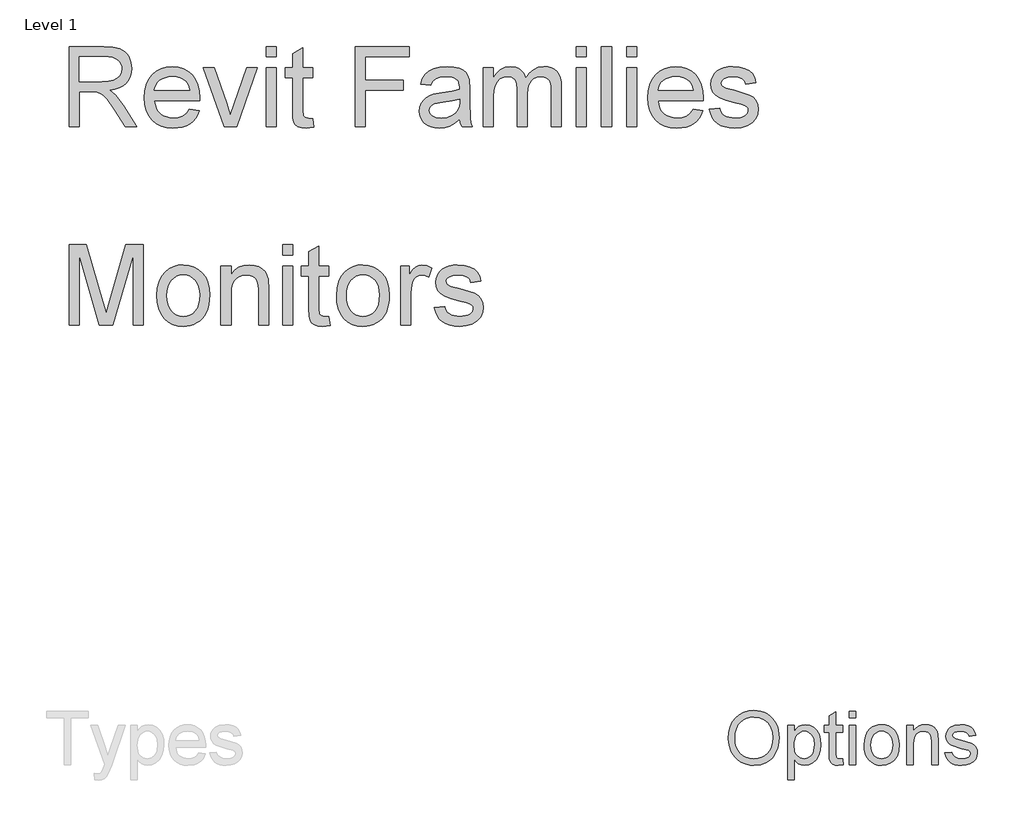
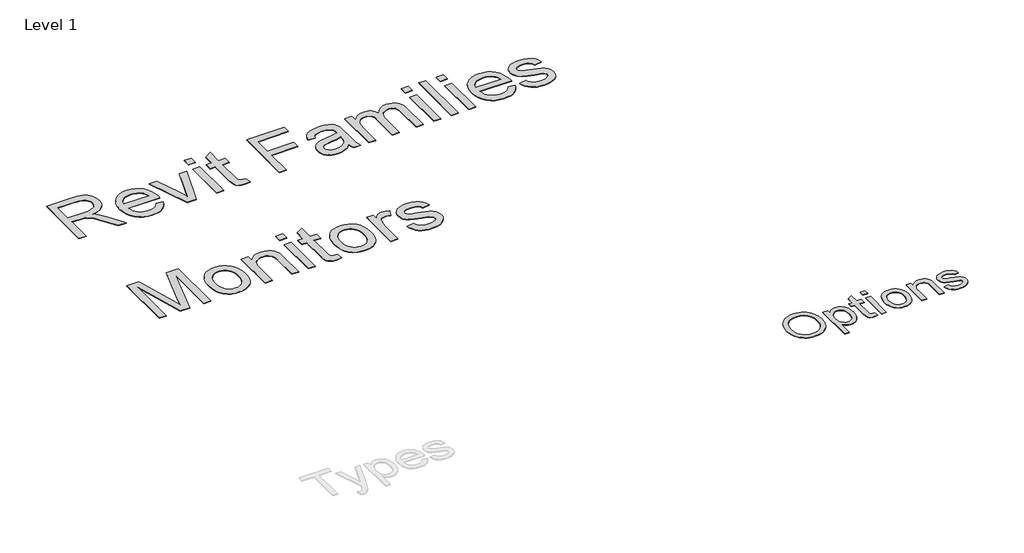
# One storey, part 7 of 7: 2 proxies.
"""IFC4 building model written with IfcOpenShell, lengths in millimetres."""

from ifc_helpers import new_model, si_unit, origin, origin_with_axes, place, context, project, spatial, polyline, outline, extrude, element, save

model = new_model("IFC4")

# Units and contexts
model_context = context("Model", 3, world=origin())
ifc_project = project(units=[si_unit("LENGTHUNIT", "METRE", prefix="MILLI")], contexts=[model_context])

# Site, building, storey
site = spatial("IfcSite", under=ifc_project)
building = spatial("IfcBuilding", under=site)
storey = spatial("IfcBuildingStorey", under=building, Name="Level 1", Elevation=0.0)

# Proxies
placement = place(None, origin())
element("IfcBuildingElementProxy", 1, Name="400mm Arial", ObjectType="400mm Arial", at=placement, inside=storey, context=model_context, shape_type="SweptSolid", body=[
    extrude(outline(polyline([(-6462.261333, 17542.0194987), (-6458.9974836, 17587.9704339), (-6449.2059353, 17628.6489968), (-6432.8866881, 17664.0551876), (-6410.0397421, 17694.1890063), (-6382.0340011, 17718.2494348), (-6350.238369, 17735.4354552), (-6314.6528458, 17745.7470674), (-6275.2774315, 17749.1842715), (-6248.9215484, 17747.57028), (-6223.892725, 17742.7283055), (-6200.1909613, 17734.6583482), (-6177.8162572, 17723.3604078), (-6157.3962762, 17709.1752161), (-6139.5586815, 17692.4435044), (-6124.3034732, 17673.1652729), (-6111.6306512, 17651.3405215), (-6101.671726, 17627.4654031), (-6094.558208, 17602.0360707), (-6088.8673936, 17546.5147639), (-6094.8570953, 17490.2522165), (-6102.3442224, 17464.4701971), (-6112.8262004, 17440.2543472), (-6126.0549528, 17418.2442857), (-6141.7824031, 17399.0796313), (-6160.0085513, 17382.7603841), (-6180.7333974, 17369.2865442), (-6226.4153339, 17351.2098396), (-6275.5643633, 17345.1842715), (-6302.3805328, 17346.8490738), (-6327.7381322, 17351.8434807), (-6351.6371616, 17360.1674923), (-6374.0776209, 17371.8211086), (-6394.473691, 17386.3530096), (-6412.2395527, 17403.3118756), (-6427.3752061, 17422.6977066), (-6439.8806512, 17444.5105025), (-6456.6661625, 17491.91403), (-6462.261333, 17542.0194987)]), holes=[polyline([(-6413.291636, 17541.541279), (-6410.843749, 17509.0761393), (-6403.5000877, 17480.2574249), (-6391.2606524, 17455.0851356), (-6374.1254429, 17433.5592715), (-6353.2959862, 17416.3194514), (-6329.9738093, 17404.0052942), (-6304.1589123, 17396.6167999), (-6275.8512951, 17394.1539684), (-6247.0594805, 17396.6407108), (-6220.9397184, 17404.1009381), (-6197.4920089, 17416.5346502), (-6176.7163519, 17433.9418472), (-6159.7066751, 17455.92202), (-6147.5569059, 17482.0746597), (-6140.2670444, 17512.3997662), (-6137.8370906, 17546.8973396), (-6141.9976019, 17590.2479552), (-6154.479136, 17627.7164684), (-6174.9588946, 17658.3583955), (-6203.1140792, 17681.2292525), (-6237.0796332, 17695.468244), (-6274.9904997, 17700.2145745), (-6302.3147776, 17697.9280866), (-6327.6663993, 17691.0686228), (-6351.0453647, 17679.6361831), (-6372.4516739, 17663.6307677), (-6390.3191573, 17642.2812471), (-6403.0816455, 17614.8164921), (-6410.7391384, 17581.2365027), (-6413.291636, 17541.541279)])]), origin_with_axes(), (0.0, 0.0, 1.0), 5.0),
    extrude(outline(polyline([(-6027.6552724, 17241.1236654), (-6027.6552724, 17639.0024533), (-5978.6855754, 17639.0024533), (-5978.6855754, 17590.9891957), (-5962.7130375, 17614.6730262), (-5944.8276209, 17631.590048), (-5923.9772421, 17641.740261), (-5899.1098179, 17645.1236654), (-5865.9931038, 17640.3892904), (-5837.0369012, 17626.1861654), (-5813.4606701, 17603.3750858), (-5796.4838709, 17572.8168472), (-5786.2260584, 17536.7351711), (-5782.8067875, 17497.353779), (-5786.6684116, 17455.4736891), (-5798.2532838, 17418.0171313), (-5817.1907838, 17386.885029), (-5843.1102913, 17363.9783055), (-5873.2979097, 17349.88278), (-5905.0397421, 17345.1842715), (-5927.5519343, 17348.328566), (-5947.6491171, 17357.7614495), (-5964.8530707, 17372.000441), (-5978.6855754, 17389.5630593), (-5978.6855754, 17241.1236654), (-6027.6552724, 17241.1236654)]), holes=[polyline([(-5978.6855754, 17492.8585139), (-5973.3892923, 17448.9579457), (-5966.7689384, 17431.9572355), (-5957.5004429, 17418.2562411), (-5934.0557222, 17400.1795366), (-5920.6386708, 17395.6603605), (-5906.0918254, 17394.1539684), (-5891.3357589, 17395.7141602), (-5877.6736199, 17400.3947355), (-5853.6311247, 17419.1170366), (-5844.0697196, 17433.3141839), (-5837.2401446, 17450.9425574), (-5831.7764845, 17496.4929836), (-5837.1086341, 17540.1544419), (-5843.7738212, 17557.2866625), (-5853.105083, 17571.2865442), (-5876.5139372, 17589.9371124), (-5889.778556, 17594.5997544), (-5904.0833027, 17596.1539684), (-5918.3432163, 17594.5011216), (-5931.7602677, 17589.5425811), (-5956.0657838, 17569.7084192), (-5965.9619426, 17554.9882191), (-5973.0306275, 17537.2731682), (-5977.2718384, 17516.5632665), (-5978.6855754, 17492.8585139)])]), origin_with_axes(), (0.0, 0.0, 1.0), 5.0),
    extrude(outline(polyline([(-5623.6552724, 17392.1454457), (-5617.5340603, 17349.8708245), (-5654.1656891, 17345.1842715), (-5677.6701872, 17347.2167052), (-5695.1969391, 17353.3140063), (-5707.5828292, 17362.7110233), (-5715.6647421, 17374.6426048), (-5720.1121853, 17395.1343188), (-5721.5946663, 17430.2117336), (-5721.5946663, 17590.0327563), (-5758.3219391, 17590.0327563), (-5758.3219391, 17639.0024533), (-5721.5946663, 17639.0024533), (-5721.5946663, 17708.918173), (-5672.6249694, 17737.7069987), (-5672.6249694, 17639.0024533), (-5623.6552724, 17639.0024533), (-5623.6552724, 17590.0327563), (-5672.6249694, 17590.0327563), (-5672.6249694, 17431.6463927), (-5670.042583, 17406.3963927), (-5661.6737383, 17397.4536843), (-5644.9838709, 17394.1539684), (-5623.6552724, 17392.1454457)])), origin_with_axes(), (0.0, 0.0, 1.0), 5.0),
    extrude(outline(polyline([(-5574.6855754, 17351.3054836), (-5574.6855754, 17639.0024533), (-5525.7158785, 17639.0024533), (-5525.7158785, 17351.3054836), (-5574.6855754, 17351.3054836)])), origin_with_axes(), (0.0, 0.0, 1.0), 5.0),
    extrude(outline(polyline([(-5574.6855754, 17694.0933624), (-5574.6855754, 17743.0630593), (-5525.7158785, 17743.0630593), (-5525.7158785, 17694.0933624), (-5574.6855754, 17694.0933624)])), origin_with_axes(), (0.0, 0.0, 1.0), 5.0),
    extrude(outline(polyline([(-5464.5037572, 17495.1539684), (-5461.8556157, 17532.4132606), (-5453.911191, 17564.5197355), (-5440.6704831, 17591.4733931), (-5422.1334921, 17613.2742336), (-5403.4709684, 17627.20836), (-5382.871655, 17637.1613074), (-5360.3355518, 17643.1330759), (-5335.8626588, 17645.1236654), (-5308.8462348, 17642.6996893), (-5284.4181749, 17635.427761), (-5262.5784791, 17623.3078806), (-5243.3271474, 17606.340048), (-5227.6146415, 17585.0981268), (-5216.391423, 17560.1559807), (-5209.6574919, 17531.5136098), (-5207.4128482, 17499.1710139), (-5211.3820716, 17449.6991862), (-5223.2897421, 17412.0393851), (-5242.7891502, 17383.8363785), (-5269.5335868, 17362.7349343), (-5301.2993302, 17349.5719372), (-5335.8626588, 17345.1842715), (-5363.273614, 17347.5992809), (-5387.9288283, 17354.8443093), (-5409.8283015, 17366.9193567), (-5428.9720338, 17383.824423), (-5444.5171628, 17405.2725764), (-5455.6208264, 17430.9768851), (-5462.2830245, 17460.9373491), (-5464.5037572, 17495.1539684)]), holes=[polyline([(-5415.5340603, 17495.2496124), (-5414.1173344, 17471.4970378), (-5409.8671569, 17450.9306019), (-5402.7835276, 17433.5503048), (-5392.8664466, 17419.3561465), (-5380.8033548, 17408.3301936), (-5367.2816929, 17400.4545129), (-5352.3014608, 17395.7291045), (-5335.8626588, 17394.1539684), (-5319.5075451, 17395.7380712), (-5304.5870906, 17400.4903794), (-5291.1012951, 17408.4108931), (-5279.0501588, 17419.4996124), (-5269.1330778, 17433.8342478), (-5262.0494485, 17451.4925101), (-5257.799271, 17472.4743993), (-5256.3825451, 17496.7799154), (-5257.8082376, 17519.7792939), (-5262.085315, 17539.8077326), (-5269.2137774, 17556.8652314), (-5279.1936247, 17570.9517904), (-5291.2895941, 17581.9777433), (-5304.766423, 17589.8534239), (-5319.6241112, 17594.5788323), (-5335.8626588, 17596.1539684), (-5352.3014608, 17594.58481), (-5367.2816929, 17589.8773349), (-5380.8033548, 17582.031543), (-5392.8664466, 17571.0474343), (-5402.7835276, 17556.8951202), (-5409.8671569, 17539.5447118), (-5414.1173344, 17518.9962092), (-5415.5340603, 17495.2496124)])]), origin_with_axes(), (0.0, 0.0, 1.0), 5.0),
    extrude(outline(polyline([(-5152.3219391, 17351.3054836), (-5152.3219391, 17639.0024533), (-5103.3522421, 17639.0024533), (-5103.3522421, 17598.8319987), (-5086.3395764, 17619.0846029), (-5065.9076398, 17633.5507487), (-5042.0564324, 17642.2304362), (-5014.7859542, 17645.1236654), (-4990.647815, 17642.7923444), (-4968.5421095, 17635.7983813), (-4950.1067402, 17625.0145271), (-4936.9796095, 17611.3135328), (-4928.0727677, 17594.7312648), (-4922.2982648, 17575.3035896), (-4919.7158785, 17527.9598396), (-4919.7158785, 17351.3054836), (-4968.6855754, 17351.3054836), (-4968.6855754, 17521.3604078), (-4970.0963235, 17546.6821408), (-4974.3285679, 17564.6871124), (-4982.1355044, 17577.5870887), (-4994.2703292, 17587.5938358), (-5009.8244249, 17594.0139353), (-5027.8891739, 17596.1539684), (-5056.5704002, 17591.3478605), (-5081.0193822, 17576.9295366), (-5090.7900084, 17565.1593543), (-5097.7690271, 17549.0732393), (-5101.9564384, 17528.6711914), (-5103.3522421, 17503.9532108), (-5103.3522421, 17351.3054836), (-5152.3219391, 17351.3054836)])), origin_with_axes(), (0.0, 0.0, 1.0), 5.0),
    extrude(outline(polyline([(-4870.7461815, 17437.0024533), (-4821.7764845, 17443.1236654), (-4814.0532364, 17422.1776427), (-4799.1088709, 17406.7789684), (-4776.847744, 17397.3102184), (-4747.1742118, 17394.1539684), (-4717.8593444, 17397.0471976), (-4697.2480754, 17405.7268851), (-4685.0534732, 17418.3040631), (-4680.9886057, 17432.8897639), (-4685.0773841, 17445.371298), (-4697.3437194, 17454.8878699), (-4747.7480754, 17468.8518851), (-4821.4895527, 17492.8106919), (-4840.1520764, 17504.8498728), (-4853.6737383, 17520.7865442), (-4861.8871616, 17539.6044893), (-4864.6249694, 17560.2874911), (-4862.4251588, 17579.2608576), (-4855.8257269, 17596.775654), (-4845.4244485, 17612.1384618), (-4831.8190982, 17624.6558624), (-4800.6869959, 17639.1459192), (-4758.5558406, 17645.1236654), (-4726.6824978, 17642.7206114), (-4698.9696663, 17635.5114495), (-4676.6846285, 17624.2015536), (-4661.0946663, 17609.496298), (-4650.7651209, 17590.3077326), (-4644.261333, 17565.5479078), (-4693.23103, 17559.4266957), (-4699.4120196, 17574.8373254), (-4711.6424883, 17586.4461086), (-4730.0419911, 17593.7270035), (-4754.730083, 17596.1539684), (-4782.8494012, 17593.8346029), (-4801.5956133, 17586.8765063), (-4812.1403576, 17576.8338927), (-4815.6552724, 17565.260976), (-4809.8209921, 17551.010029), (-4791.5529997, 17540.2022639), (-4749.3740224, 17529.7770745), (-4677.4976019, 17506.7268851), (-4658.51228, 17495.7039211), (-4644.1178671, 17480.6160896), (-4635.0436483, 17461.4155688), (-4632.0189088, 17438.0545366), (-4635.56969, 17413.9044419), (-4646.2220338, 17391.1890063), (-4663.5694533, 17371.6895982), (-4687.2054618, 17357.1875858), (-4715.7551777, 17348.1851), (-4747.8437194, 17345.1842715), (-4774.1996024, 17346.630886), (-4797.2199031, 17350.9707298), (-4816.9046214, 17358.2038027), (-4833.2537572, 17368.3301048), (-4846.6080423, 17381.3018141), (-4857.308208, 17397.0711086), (-4865.3542544, 17415.6379883), (-4870.7461815, 17437.0024533)])), origin_with_axes(), (0.0, 0.0, 1.0), 5.0),
])
element("IfcBuildingElementProxy", 2, Name="600mm Arial", ObjectType="600mm Arial", at=placement, inside=storey, context=model_context, shape_type="SweptSolid", body=[
    extrude(outline(polyline([(-11309.2935955, 22041.6162982), (-11309.2935955, 22632.385529), (-11054.7262878, 22632.385529), (-10986.3068167, 22628.401154), (-10936.5291724, 22616.448029), (-10917.3194369, 22606.9468271), (-10900.1469609, 22594.3807213), (-10885.0117446, 22578.7497117), (-10871.9137878, 22560.0537982), (-10861.3443768, 22539.2980891), (-10853.7947974, 22517.4876924), (-10847.755134, 22470.7028367), (-10850.2566364, 22440.3602886), (-10857.7611436, 22412.5057213), (-10870.2686556, 22387.1391347), (-10887.7791724, 22364.260529), (-10910.5180547, 22344.6000722), (-10938.7106628, 22328.8879328), (-10972.356997, 22317.1241107), (-11011.4570571, 22309.3086059), (-10987.1181148, 22293.4071636), (-10969.4859032, 22277.7220674), (-10909.630134, 22201.7124521), (-10811.1205186, 22041.6162982), (-10896.9378263, 22041.6162982), (-10973.8128263, 22164.0682213), (-11029.3416724, 22245.1259136), (-11049.9847013, 22268.7617309), (-11068.3560955, 22283.4191828), (-11103.4762878, 22297.4816828), (-11146.3128263, 22300.0778367), (-11235.4474417, 22300.0778367), (-11235.4474417, 22041.6162982), (-11309.2935955, 22041.6162982)]), holes=[polyline([(-11235.4474417, 22373.9239905), (-11070.1589801, 22373.9239905), (-11022.6890282, 22376.5381732), (-10985.8560955, 22384.3807213), (-10958.1277301, 22397.9744713), (-10937.9714801, 22417.8422597), (-10925.6938359, 22441.8747117), (-10921.6012878, 22467.9624521), (-10923.5529104, 22486.8476684), (-10929.4077782, 22503.9840867), (-10939.1658912, 22519.3717069), (-10952.8272494, 22533.010529), (-10970.7073575, 22544.1793992), (-10993.1217205, 22552.1571636), (-11020.0703383, 22556.9438222), (-11051.5532109, 22558.5393751), (-11235.4474417, 22558.5393751), (-11235.4474417, 22373.9239905)])]), origin_with_axes(), (0.0, 0.0, 1.0), 5.0),
    extrude(outline(polyline([(-10424.005134, 22170.8470674), (-10351.6012878, 22161.6162982), (-10362.7025498, 22132.6168992), (-10377.6890282, 22107.0610097), (-10396.5607229, 22084.9486299), (-10419.317634, 22066.2797597), (-10445.7253864, 22051.4510338), (-10475.5496051, 22040.8590867), (-10508.7902902, 22034.5039184), (-10545.4474417, 22032.385529), (-10591.2677542, 22036.0408775), (-10632.0940763, 22047.0069232), (-10667.926408, 22065.283666), (-10698.7647494, 22090.8711059), (-10723.5634273, 22123.0571035), (-10741.2767686, 22161.1295194), (-10751.9047734, 22205.0883535), (-10755.4474417, 22254.9336059), (-10751.8687157, 22306.4690626), (-10741.1325378, 22351.8927405), (-10723.238908, 22391.2046396), (-10698.1878263, 22424.4047597), (-10667.4306148, 22450.7809617), (-10632.4185955, 22469.6211059), (-10593.1517686, 22480.9251924), (-10549.630134, 22484.6932213), (-10507.5102422, 22480.9342069), (-10469.4197974, 22469.6571636), (-10435.3587998, 22450.8620915), (-10405.3272494, 22424.5489905), (-10380.8125258, 22391.4209857), (-10363.302009, 22352.1812021), (-10352.7956989, 22306.8296396), (-10349.2935955, 22255.3662982), (-10349.7262878, 22235.4624521), (-10681.6012878, 22235.4624521), (-10677.3239441, 22205.994303), (-10668.8188359, 22180.1860097), (-10656.0859633, 22158.0375722), (-10639.1253263, 22139.5489905), (-10618.8744248, 22124.9726684), (-10596.270759, 22114.5610097), (-10571.3143287, 22108.3140146), (-10544.005134, 22106.2316828), (-10504.7022494, 22110.0898559), (-10471.6012878, 22121.6643751), (-10444.7022494, 22141.6763944), (-10424.005134, 22170.8470674)]), holes=[polyline([(-10681.6012878, 22309.3086059), (-10423.1397494, 22309.3086059), (-10433.1277301, 22348.323029), (-10441.7184753, 22363.6655771), (-10452.7070571, 22376.2316828), (-10472.8452782, 22391.3759136), (-10495.7599417, 22402.1932213), (-10521.4510474, 22408.6836059), (-10549.9185955, 22410.8470674), (-10575.8846412, 22409.1208054), (-10599.6962398, 22403.9420194), (-10621.3533912, 22395.3107093), (-10640.8560955, 22383.2268751), (-10657.2217806, 22368.2494112), (-10669.4678744, 22350.9372117), (-10677.5943768, 22331.2902766), (-10681.6012878, 22309.3086059)])]), origin_with_axes(), (0.0, 0.0, 1.0), 5.0),
    extrude(outline(polyline([(-10169.005134, 22041.6162982), (-10321.6012878, 22475.4624521), (-10243.4282109, 22475.4624521), (-10150.9762878, 22215.5586059), (-10123.1397494, 22128.1547597), (-10095.880134, 22210.6547597), (-10002.8512878, 22475.4624521), (-9924.6782109, 22475.4624521), (-10075.3993648, 22041.6162982), (-10169.005134, 22041.6162982)])), origin_with_axes(), (0.0, 0.0, 1.0), 5.0),
    extrude(outline(polyline([(-9860.0628263, 22041.6162982), (-9860.0628263, 22475.4624521), (-9786.2166724, 22475.4624521), (-9786.2166724, 22041.6162982), (-9860.0628263, 22041.6162982)])), origin_with_axes(), (0.0, 0.0, 1.0), 5.0),
    extrude(outline(polyline([(-9860.0628263, 22558.5393751), (-9860.0628263, 22632.385529), (-9786.2166724, 22632.385529), (-9786.2166724, 22558.5393751), (-9860.0628263, 22558.5393751)])), origin_with_axes(), (0.0, 0.0, 1.0), 5.0),
    extrude(outline(polyline([(-9518.5243648, 22103.2028367), (-9509.2935955, 22039.4528367), (-9564.5339801, 22032.385529), (-9599.9786917, 22035.4504328), (-9626.4089801, 22044.6451444), (-9645.0868648, 22058.8158174), (-9657.2743648, 22076.8086059), (-9663.9810955, 22107.7100482), (-9666.2166724, 22160.6066828), (-9666.2166724, 22401.6162982), (-9721.6012878, 22401.6162982), (-9721.6012878, 22475.4624521), (-9666.2166724, 22475.4624521), (-9666.2166724, 22580.8951444), (-9592.3705186, 22624.3086059), (-9592.3705186, 22475.4624521), (-9518.5243648, 22475.4624521), (-9518.5243648, 22401.6162982), (-9592.3705186, 22401.6162982), (-9592.3705186, 22162.7701444), (-9588.4762878, 22124.6932213), (-9575.8560955, 22111.2076444), (-9565.2010474, 22107.4756732), (-9550.6878263, 22106.2316828), (-9518.5243648, 22103.2028367)])), origin_with_axes(), (0.0, 0.0, 1.0), 5.0),
    extrude(outline(polyline([(-9204.6782109, 22041.6162982), (-9204.6782109, 22632.385529), (-8807.755134, 22632.385529), (-8807.755134, 22558.5393751), (-9130.8320571, 22558.5393751), (-9130.8320571, 22383.1547597), (-8853.9089801, 22383.1547597), (-8853.9089801, 22309.3086059), (-9130.8320571, 22309.3086059), (-9130.8320571, 22041.6162982), (-9204.6782109, 22041.6162982)])), origin_with_axes(), (0.0, 0.0, 1.0), 5.0),
    extrude(outline(polyline([(-8438.5243648, 22097.0009136), (-8473.8068167, 22066.7485097), (-8510.1349417, 22046.9528367), (-8548.3380667, 22036.0273559), (-8589.2455186, 22032.385529), (-8622.1256268, 22034.5760338), (-8650.958259, 22041.1475482), (-8675.7434152, 22052.1000722), (-8696.4810955, 22067.4336059), (-8712.855795, 22086.1745915), (-8724.552009, 22107.3494713), (-8731.5697373, 22130.9582453), (-8733.9089801, 22157.0009136), (-8730.3753263, 22187.6138944), (-8719.7743648, 22215.4143751), (-8703.4222013, 22239.2124521), (-8682.6349417, 22257.8182213), (-8658.2058551, 22271.8807213), (-8630.9282109, 22282.0489905), (-8567.0339801, 22293.1547597), (-8491.5291724, 22304.8374521), (-8438.9570571, 22318.5393751), (-8438.5243648, 22334.9816828), (-8443.6084994, 22367.9384136), (-8449.9636676, 22380.1439424), (-8458.8609032, 22389.5009136), (-8474.239509, 22398.8398559), (-8492.9714801, 22405.510529), (-8540.4955186, 22410.8470674), (-8584.4859032, 22407.2953847), (-8615.2070571, 22396.6403367), (-8636.1565763, 22376.9348078), (-8650.8320571, 22346.2316828), (-8724.6782109, 22355.4624521), (-8711.8597013, 22395.8470674), (-8692.7310955, 22427.5778367), (-8665.5075378, 22451.8446636), (-8628.4041724, 22469.8374521), (-8583.0255667, 22480.979279), (-8530.9762878, 22484.6932213), (-8481.0544128, 22481.4119713), (-8441.4810955, 22471.5682213), (-8411.6433551, 22456.7665386), (-8390.9282109, 22438.6114905), (-8377.1902301, 22416.1655771), (-8368.2839801, 22388.4912982), (-8364.6782109, 22323.8759136), (-8364.6782109, 22232.0009136), (-8360.9282109, 22103.7076444), (-8355.3753263, 22071.994904), (-8346.2166724, 22041.6162982), (-8420.0628263, 22041.6162982), (-8431.8897494, 22067.2893751), (-8438.5243648, 22097.0009136)]), holes=[polyline([(-8438.5243648, 22244.6932213), (-8488.1397494, 22232.3975482), (-8557.6589801, 22222.0489905), (-8621.192634, 22210.0778367), (-8637.7250859, 22201.8927405), (-8649.9666724, 22190.6066828), (-8657.5387878, 22177.0850482), (-8660.0628263, 22162.1932213), (-8654.5640282, 22140.2340867), (-8638.067634, 22122.2412982), (-8610.9342205, 22110.2340867), (-8573.5243648, 22106.2316828), (-8533.8609032, 22110.6487501), (-8498.8128263, 22123.8999521), (-8470.3993648, 22143.4251924), (-8450.6397494, 22166.6643751), (-8441.8777301, 22190.6066828), (-8438.9570571, 22223.7797597), (-8438.5243648, 22244.6932213)])]), origin_with_axes(), (0.0, 0.0, 1.0), 5.0),
    extrude(outline(polyline([(-8263.1397494, 22041.6162982), (-8263.1397494, 22475.4624521), (-8189.2935955, 22475.4624521), (-8189.2935955, 22404.0682213), (-8167.0820571, 22436.8626924), (-8138.5243648, 22462.5537982), (-8104.5940763, 22479.1583655), (-8066.2647494, 22484.6932213), (-8025.1950378, 22479.0501924), (-8007.7160715, 22471.9964064), (-7992.2743648, 22462.1211059), (-7967.6830186, 22435.0237501), (-7951.6012878, 22398.8759136), (-7924.6842205, 22436.4209857), (-7893.9810955, 22463.2388944), (-7859.4919128, 22479.3296396), (-7821.2166724, 22484.6932213), (-7791.653872, 22482.4621516), (-7765.7058551, 22475.7689424), (-7743.372622, 22464.6135939), (-7724.6541724, 22448.9961059), (-7709.856997, 22428.73619), (-7699.2875859, 22403.6535578), (-7692.9459393, 22373.7482093), (-7690.8320571, 22339.0201444), (-7690.8320571, 22041.6162982), (-7764.6782109, 22041.6162982), (-7764.6782109, 22307.2893751), (-7766.3909513, 22344.1223078), (-7771.5291724, 22368.948029), (-7781.1565763, 22385.9492309), (-7796.3368648, 22399.3086059), (-7815.8621051, 22407.9624521), (-7838.5243648, 22410.8470674), (-7859.4513479, 22408.9991107), (-7878.5303744, 22403.4552405), (-7895.7614441, 22394.2154569), (-7911.1445571, 22381.2797597), (-7923.7962998, 22364.2695434), (-7932.833259, 22342.8062021), (-7938.2554345, 22316.8897357), (-7940.0628263, 22286.5201444), (-7940.0628263, 22041.6162982), (-8013.9089801, 22041.6162982), (-8013.9089801, 22315.510529), (-8018.1818167, 22357.2653367), (-8031.0003263, 22387.0489905), (-8040.9116845, 22397.4606492), (-8053.5544128, 22404.8975482), (-8068.9285114, 22409.3596876), (-8087.0339801, 22410.8470674), (-8115.4834994, 22406.8807213), (-8141.6974417, 22394.9816828), (-8163.3320571, 22375.4384136), (-8178.0435955, 22348.5393751), (-8186.4810955, 22311.2196636), (-8189.2935955, 22260.4143751), (-8189.2935955, 22041.6162982), (-8263.1397494, 22041.6162982)])), origin_with_axes(), (0.0, 0.0, 1.0), 5.0),
    extrude(outline(polyline([(-7580.0628263, 22041.6162982), (-7580.0628263, 22475.4624521), (-7506.2166724, 22475.4624521), (-7506.2166724, 22041.6162982), (-7580.0628263, 22041.6162982)])), origin_with_axes(), (0.0, 0.0, 1.0), 5.0),
    extrude(outline(polyline([(-7580.0628263, 22558.5393751), (-7580.0628263, 22632.385529), (-7506.2166724, 22632.385529), (-7506.2166724, 22558.5393751), (-7580.0628263, 22558.5393751)])), origin_with_axes(), (0.0, 0.0, 1.0), 5.0),
    extrude(outline(polyline([(-7395.4474417, 22041.6162982), (-7395.4474417, 22632.385529), (-7321.6012878, 22632.385529), (-7321.6012878, 22041.6162982), (-7395.4474417, 22041.6162982)])), origin_with_axes(), (0.0, 0.0, 1.0), 5.0),
    extrude(outline(polyline([(-7210.8320571, 22041.6162982), (-7210.8320571, 22475.4624521), (-7136.9859032, 22475.4624521), (-7136.9859032, 22041.6162982), (-7210.8320571, 22041.6162982)])), origin_with_axes(), (0.0, 0.0, 1.0), 5.0),
    extrude(outline(polyline([(-7210.8320571, 22558.5393751), (-7210.8320571, 22632.385529), (-7136.9859032, 22632.385529), (-7136.9859032, 22558.5393751), (-7210.8320571, 22558.5393751)])), origin_with_axes(), (0.0, 0.0, 1.0), 5.0),
    extrude(outline(polyline([(-6722.4666724, 22170.8470674), (-6650.0628263, 22161.6162982), (-6661.1640883, 22132.6168992), (-6676.1505667, 22107.0610097), (-6695.0222614, 22084.9486299), (-6717.7791724, 22066.2797597), (-6744.1869248, 22051.4510338), (-6774.0111436, 22040.8590867), (-6807.2518287, 22034.5039184), (-6843.9089801, 22032.385529), (-6889.7292926, 22036.0408775), (-6930.5556148, 22047.0069232), (-6966.3879465, 22065.283666), (-6997.2262878, 22090.8711059), (-7022.0249657, 22123.0571035), (-7039.7383071, 22161.1295194), (-7050.3663119, 22205.0883535), (-7053.9089801, 22254.9336059), (-7050.3302542, 22306.4690626), (-7039.5940763, 22351.8927405), (-7021.7004465, 22391.2046396), (-6996.6493648, 22424.4047597), (-6965.8921532, 22450.7809617), (-6930.880134, 22469.6211059), (-6891.6133071, 22480.9251924), (-6848.0916724, 22484.6932213), (-6805.9717806, 22480.9342069), (-6767.8813359, 22469.6571636), (-6733.8203383, 22450.8620915), (-6703.7887878, 22424.5489905), (-6679.2740643, 22391.4209857), (-6661.7635474, 22352.1812021), (-6651.2572373, 22306.8296396), (-6647.755134, 22255.3662982), (-6648.1878263, 22235.4624521), (-6980.0628263, 22235.4624521), (-6975.7854825, 22205.994303), (-6967.2803744, 22180.1860097), (-6954.5475018, 22158.0375722), (-6937.5868648, 22139.5489905), (-6917.3359633, 22124.9726684), (-6894.7322974, 22114.5610097), (-6869.7758672, 22108.3140146), (-6842.4666724, 22106.2316828), (-6803.1637878, 22110.0898559), (-6770.0628263, 22121.6643751), (-6743.1637878, 22141.6763944), (-6722.4666724, 22170.8470674)]), holes=[polyline([(-6980.0628263, 22309.3086059), (-6721.6012878, 22309.3086059), (-6731.5892686, 22348.323029), (-6740.1800138, 22363.6655771), (-6751.1685955, 22376.2316828), (-6771.3068167, 22391.3759136), (-6794.2214801, 22402.1932213), (-6819.9125859, 22408.6836059), (-6848.380134, 22410.8470674), (-6874.3461797, 22409.1208054), (-6898.1577782, 22403.9420194), (-6919.8149297, 22395.3107093), (-6939.317634, 22383.2268751), (-6955.6833191, 22368.2494112), (-6967.9294128, 22350.9372117), (-6976.0559152, 22331.2902766), (-6980.0628263, 22309.3086059)])]), origin_with_axes(), (0.0, 0.0, 1.0), 5.0),
    extrude(outline(polyline([(-6601.6012878, 22170.8470674), (-6527.755134, 22180.0778367), (-6523.2929946, 22163.2388944), (-6516.1084994, 22148.4912982), (-6506.2016484, 22135.8350482), (-6493.5724417, 22125.2701444), (-6478.1848215, 22116.9408174), (-6460.0027301, 22110.9912982), (-6415.255134, 22106.2316828), (-6371.0484032, 22110.5946636), (-6353.8669128, 22116.0483896), (-6339.9666724, 22123.6836059), (-6321.5772494, 22142.6499521), (-6315.4474417, 22164.6451444), (-6316.988908, 22174.6150963), (-6321.6133071, 22183.4672597), (-6340.1109032, 22197.8182213), (-6367.7671532, 22207.1932213), (-6416.1205186, 22218.8759136), (-6483.5123455, 22238.3650963), (-6527.3224417, 22255.0057213), (-6555.4654705, 22273.1607694), (-6575.8560955, 22297.1932213), (-6588.2419128, 22325.5706251), (-6592.3705186, 22356.760529), (-6589.0532109, 22385.3723078), (-6579.1012878, 22411.7845674), (-6563.4161917, 22434.9516347), (-6542.8993648, 22453.8278367), (-6522.5087398, 22465.7088463), (-6495.9522494, 22475.6787982), (-6465.2491244, 22482.4396155), (-6432.4185955, 22484.6932213), (-6384.3536917, 22481.0694232), (-6342.5628263, 22470.198029), (-6308.9570571, 22453.1427405), (-6285.4474417, 22430.9672597), (-6269.8705186, 22402.0309617), (-6260.0628263, 22364.6932213), (-6333.9089801, 22355.4624521), (-6343.2298936, 22378.7016347), (-6361.6734032, 22396.2076444), (-6389.4197974, 22407.1872117), (-6426.6493648, 22410.8470674), (-6469.0532109, 22407.3494713), (-6497.3224417, 22396.8566828), (-6513.223884, 22381.7124521), (-6518.5243648, 22364.260529), (-6516.3248455, 22352.9023559), (-6509.7262878, 22342.7701444), (-6498.4402301, 22333.7196636), (-6482.1782109, 22326.4720674), (-6418.5724417, 22310.7509136), (-6310.1830186, 22275.9912982), (-6281.5532109, 22259.3687021), (-6259.8464801, 22236.6162982), (-6246.1625859, 22207.6619713), (-6241.6012878, 22172.4336059), (-6246.9558551, 22136.0153367), (-6263.0195571, 22101.760529), (-6289.1794128, 22072.3554809), (-6324.8224417, 22050.4864905), (-6367.8753263, 22036.9107694), (-6416.2647494, 22032.385529), (-6456.0093407, 22034.5670194), (-6490.723884, 22041.1114905), (-6520.4083792, 22052.0189424), (-6545.0628263, 22067.2893751), (-6565.2010474, 22086.8506732), (-6581.3368648, 22110.6307213), (-6593.4702782, 22138.6295194), (-6601.6012878, 22170.8470674)])), origin_with_axes(), (0.0, 0.0, 1.0), 5.0),
    extrude(outline(polyline([(-11309.2935955, 20583.1547597), (-11309.2935955, 21173.9239905), (-11182.2262878, 21173.9239905), (-11061.3609032, 20757.5297597), (-11036.9859032, 20670.5586059), (-11010.5916724, 20764.7412982), (-10891.7455186, 21173.9239905), (-10764.6782109, 21173.9239905), (-10764.6782109, 20583.1547597), (-10838.5243648, 20583.1547597), (-10838.5243648, 21100.0778367), (-10986.9378263, 20583.1547597), (-11087.0339801, 20583.1547597), (-11235.4474417, 21100.0778367), (-11235.4474417, 20583.1547597), (-11309.2935955, 20583.1547597)])), origin_with_axes(), (0.0, 0.0, 1.0), 5.0),
    extrude(outline(polyline([(-10663.1397494, 20800.0778367), (-10659.1463599, 20856.2647357), (-10647.1661917, 20904.6812021), (-10627.1992446, 20945.3272357), (-10599.2455186, 20978.2028367), (-10571.1024898, 20999.2154569), (-10540.0387878, 21014.2244713), (-10506.0544128, 21023.2298799), (-10469.1493648, 21026.2316828), (-10428.4086797, 21022.5763343), (-10391.5712398, 21011.6102886), (-10358.637045, 20993.3335458), (-10329.6060955, 20967.7461059), (-10305.9116845, 20935.7133535), (-10288.9871051, 20898.1006732), (-10278.8323575, 20854.908065), (-10275.4474417, 20806.135529), (-10276.9438359, 20766.6072838), (-10281.4330186, 20731.5321636), (-10288.9149898, 20700.9101684), (-10299.3897494, 20674.7412982), (-10312.7265883, 20652.1376323), (-10328.7947974, 20632.2112501), (-10347.5943768, 20614.9621516), (-10369.1253263, 20600.3903367), (-10392.5493047, 20588.8113102), (-10417.0279705, 20580.5405771), (-10442.5613239, 20575.5781372), (-10469.1493648, 20573.9239905), (-10510.4850018, 20577.5658174), (-10547.6649898, 20588.4912982), (-10580.6893287, 20606.7004328), (-10609.5580186, 20632.1932213), (-10633.0000258, 20664.5369713), (-10649.7443167, 20703.2989905), (-10659.7908912, 20748.479279), (-10663.1397494, 20800.0778367)]), holes=[polyline([(-10589.2935955, 20800.2220674), (-10587.1571773, 20764.4032573), (-10580.7479224, 20733.3891347), (-10570.0658311, 20707.1796997), (-10555.1109032, 20685.7749521), (-10536.9197974, 20669.1478487), (-10516.5291724, 20657.2713463), (-10493.9390282, 20650.1454448), (-10469.1493648, 20647.7701444), (-10444.4859032, 20650.1589665), (-10421.9859032, 20657.3254328), (-10401.6493648, 20669.2695434), (-10383.4762878, 20685.9912982), (-10368.5213599, 20707.6078847), (-10357.8392686, 20734.2364905), (-10351.4300138, 20765.8771155), (-10349.2935955, 20802.5297597), (-10351.4435354, 20837.2127525), (-10357.8933551, 20867.4155771), (-10368.6430547, 20893.1382333), (-10383.692634, 20914.3807213), (-10401.9333191, 20931.0078247), (-10422.2563359, 20942.8843271), (-10444.6616845, 20950.0102285), (-10469.1493648, 20952.385529), (-10493.9390282, 20950.0192429), (-10516.5291724, 20942.9203847), (-10536.9197974, 20931.0889545), (-10555.1109032, 20914.5249521), (-10570.0658311, 20893.1833054), (-10580.7479224, 20867.0189424), (-10587.1571773, 20836.0318631), (-10589.2935955, 20800.2220674)])]), origin_with_axes(), (0.0, 0.0, 1.0), 5.0),
    extrude(outline(polyline([(-10192.3705186, 20583.1547597), (-10192.3705186, 21017.0009136), (-10118.5243648, 21017.0009136), (-10118.5243648, 20956.4239905), (-10092.8693167, 20986.9648559), (-10062.0580186, 21008.7797597), (-10026.0904705, 21021.8687021), (-9984.9666724, 21026.2316828), (-9948.5664321, 21022.7160578), (-9915.2310955, 21012.1691828), (-9887.4306148, 20995.9071636), (-9867.6349417, 20975.2461059), (-9854.2034513, 20950.2400963), (-9845.4955186, 20920.9432213), (-9841.6012878, 20849.5489905), (-9841.6012878, 20583.1547597), (-9915.4474417, 20583.1547597), (-9915.4474417, 20839.5970674), (-9917.5748455, 20877.7821636), (-9923.9570571, 20904.9336059), (-9935.7298936, 20924.3867309), (-9954.0291724, 20939.4768751), (-9977.4847013, 20949.1583655), (-10004.7262878, 20952.385529), (-10027.1496652, 20950.5736299), (-10047.9774898, 20945.1379328), (-10067.2097614, 20936.0784376), (-10084.8464801, 20923.3951444), (-10099.5805547, 20905.6457453), (-10110.1048936, 20881.3879328), (-10116.419497, 20850.6217069), (-10118.5243648, 20813.3470674), (-10118.5243648, 20583.1547597), (-10192.3705186, 20583.1547597)])), origin_with_axes(), (0.0, 0.0, 1.0), 5.0),
    extrude(outline(polyline([(-9740.0628263, 21100.0778367), (-9740.0628263, 21173.9239905), (-9666.2166724, 21173.9239905), (-9666.2166724, 21100.0778367), (-9740.0628263, 21100.0778367)])), origin_with_axes(), (0.0, 0.0, 1.0), 5.0),
    extrude(outline(polyline([(-9740.0628263, 20583.1547597), (-9740.0628263, 21017.0009136), (-9666.2166724, 21017.0009136), (-9666.2166724, 20583.1547597), (-9740.0628263, 20583.1547597)])), origin_with_axes(), (0.0, 0.0, 1.0), 5.0),
    extrude(outline(polyline([(-9398.5243648, 20644.7412982), (-9389.2935955, 20580.9912982), (-9444.5339801, 20573.9239905), (-9479.9786917, 20576.9888944), (-9506.4089801, 20586.1836059), (-9525.0868648, 20600.354279), (-9537.2743648, 20618.3470674), (-9543.9810955, 20649.2485097), (-9546.2166724, 20702.1451444), (-9546.2166724, 20943.1547597), (-9601.6012878, 20943.1547597), (-9601.6012878, 21017.0009136), (-9546.2166724, 21017.0009136), (-9546.2166724, 21122.4336059), (-9472.3705186, 21165.8470674), (-9472.3705186, 21017.0009136), (-9398.5243648, 21017.0009136), (-9398.5243648, 20943.1547597), (-9472.3705186, 20943.1547597), (-9472.3705186, 20704.3086059), (-9468.4762878, 20666.2316828), (-9455.8560955, 20652.7461059), (-9445.2010474, 20649.0141347), (-9430.6878263, 20647.7701444), (-9398.5243648, 20644.7412982)])), origin_with_axes(), (0.0, 0.0, 1.0), 5.0),
    extrude(outline(polyline([(-9343.1397494, 20800.0778367), (-9339.1463599, 20856.2647357), (-9327.1661917, 20904.6812021), (-9307.1992446, 20945.3272357), (-9279.2455186, 20978.2028367), (-9251.1024898, 20999.2154569), (-9220.0387878, 21014.2244713), (-9186.0544128, 21023.2298799), (-9149.1493648, 21026.2316828), (-9108.4086797, 21022.5763343), (-9071.5712398, 21011.6102886), (-9038.637045, 20993.3335458), (-9009.6060955, 20967.7461059), (-8985.9116845, 20935.7133535), (-8968.9871051, 20898.1006732), (-8958.8323575, 20854.908065), (-8955.4474417, 20806.135529), (-8956.9438359, 20766.6072838), (-8961.4330186, 20731.5321636), (-8968.9149898, 20700.9101684), (-8979.3897494, 20674.7412982), (-8992.7265883, 20652.1376323), (-9008.7947974, 20632.2112501), (-9027.5943768, 20614.9621516), (-9049.1253263, 20600.3903367), (-9072.5493047, 20588.8113102), (-9097.0279705, 20580.5405771), (-9122.5613239, 20575.5781372), (-9149.1493648, 20573.9239905), (-9190.4850018, 20577.5658174), (-9227.6649898, 20588.4912982), (-9260.6893287, 20606.7004328), (-9289.5580186, 20632.1932213), (-9313.0000258, 20664.5369713), (-9329.7443167, 20703.2989905), (-9339.7908912, 20748.479279), (-9343.1397494, 20800.0778367)]), holes=[polyline([(-9269.2935955, 20800.2220674), (-9267.1571773, 20764.4032573), (-9260.7479224, 20733.3891347), (-9250.0658311, 20707.1796997), (-9235.1109032, 20685.7749521), (-9216.9197974, 20669.1478487), (-9196.5291724, 20657.2713463), (-9173.9390282, 20650.1454448), (-9149.1493648, 20647.7701444), (-9124.4859032, 20650.1589665), (-9101.9859032, 20657.3254328), (-9081.6493648, 20669.2695434), (-9063.4762878, 20685.9912982), (-9048.5213599, 20707.6078847), (-9037.8392686, 20734.2364905), (-9031.4300138, 20765.8771155), (-9029.2935955, 20802.5297597), (-9031.4435354, 20837.2127525), (-9037.8933551, 20867.4155771), (-9048.6430547, 20893.1382333), (-9063.692634, 20914.3807213), (-9081.9333191, 20931.0078247), (-9102.2563359, 20942.8843271), (-9124.6616845, 20950.0102285), (-9149.1493648, 20952.385529), (-9173.9390282, 20950.0192429), (-9196.5291724, 20942.9203847), (-9216.9197974, 20931.0889545), (-9235.1109032, 20914.5249521), (-9250.0658311, 20893.1833054), (-9260.7479224, 20867.0189424), (-9267.1571773, 20836.0318631), (-9269.2935955, 20800.2220674)])]), origin_with_axes(), (0.0, 0.0, 1.0), 5.0),
    extrude(outline(polyline([(-8872.3705186, 20583.1547597), (-8872.3705186, 21017.0009136), (-8807.755134, 21017.0009136), (-8807.755134, 20952.8182213), (-8783.8849417, 20990.0297597), (-8761.8897494, 21011.9528367), (-8739.8224417, 21022.6619713), (-8715.7359032, 21026.2316828), (-8678.9570571, 21020.5345674), (-8641.6012878, 21003.4432213), (-8666.2647494, 20937.2412982), (-8692.2262878, 20948.5994713), (-8718.1878263, 20952.385529), (-8740.2371051, 20948.7437021), (-8759.942634, 20937.8182213), (-8775.8621051, 20920.4384136), (-8786.5532109, 20897.4336059), (-8795.5315763, 20856.1836059), (-8798.5243648, 20811.1836059), (-8798.5243648, 20583.1547597), (-8872.3705186, 20583.1547597)])), origin_with_axes(), (0.0, 0.0, 1.0), 5.0),
    extrude(outline(polyline([(-8623.1397494, 20712.385529), (-8549.2935955, 20721.6162982), (-8544.8314561, 20704.7773559), (-8537.6469609, 20690.0297597), (-8527.7401099, 20677.3735097), (-8515.1109032, 20666.8086059), (-8499.723283, 20658.479279), (-8481.5411917, 20652.5297597), (-8436.7935955, 20647.7701444), (-8392.5868648, 20652.1331251), (-8375.4053744, 20657.5868511), (-8361.505134, 20665.2220674), (-8343.1157109, 20684.1884136), (-8336.9859032, 20706.1836059), (-8338.5273696, 20716.1535578), (-8343.1517686, 20725.0057213), (-8361.6493648, 20739.3566828), (-8389.3056148, 20748.7316828), (-8437.6589801, 20760.4143751), (-8505.0508071, 20779.9035578), (-8548.8609032, 20796.5441828), (-8577.0039321, 20814.6992309), (-8597.3945571, 20838.7316828), (-8609.7803744, 20867.1090867), (-8613.9089801, 20898.2989905), (-8610.5916724, 20926.9107694), (-8600.6397494, 20953.323029), (-8584.9546532, 20976.4900963), (-8564.4378263, 20995.3662982), (-8544.0472013, 21007.2473078), (-8517.4907109, 21017.2172597), (-8486.7875859, 21023.9780771), (-8453.9570571, 21026.2316828), (-8405.8921532, 21022.6078847), (-8364.1012878, 21011.7364905), (-8330.4955186, 20994.6812021), (-8306.9859032, 20972.5057213), (-8291.4089801, 20943.5694232), (-8281.6012878, 20906.2316828), (-8355.4474417, 20897.0009136), (-8364.7683551, 20920.2400963), (-8383.2118648, 20937.7461059), (-8410.958259, 20948.7256732), (-8448.1878263, 20952.385529), (-8490.5916724, 20948.8879328), (-8518.8609032, 20938.3951444), (-8534.7623455, 20923.2509136), (-8540.0628263, 20905.7989905), (-8537.8633071, 20894.4408174), (-8531.2647494, 20884.3086059), (-8519.9786917, 20875.2581251), (-8503.7166724, 20868.010529), (-8440.1109032, 20852.2893751), (-8331.7214801, 20817.5297597), (-8303.0916724, 20800.9071636), (-8281.3849417, 20778.1547597), (-8267.7010474, 20749.2004328), (-8263.1397494, 20713.9720674), (-8268.4943167, 20677.5537982), (-8284.5580186, 20643.2989905), (-8310.7178744, 20613.8939424), (-8346.3609032, 20592.0249521), (-8389.4137878, 20578.4492309), (-8437.8032109, 20573.9239905), (-8477.5478023, 20576.1054809), (-8512.2623455, 20582.6499521), (-8541.9468407, 20593.557404), (-8566.6012878, 20608.8278367), (-8586.739509, 20628.3891347), (-8602.8753263, 20652.1691828), (-8615.0087398, 20680.1679809), (-8623.1397494, 20712.385529)])), origin_with_axes(), (0.0, 0.0, 1.0), 5.0),
])

save(model, "model.ifc")
